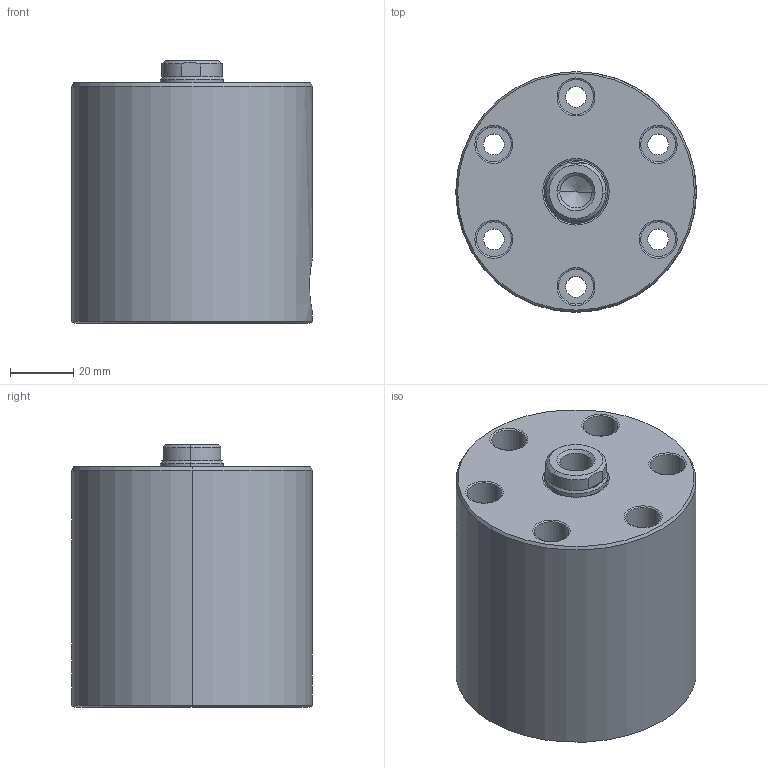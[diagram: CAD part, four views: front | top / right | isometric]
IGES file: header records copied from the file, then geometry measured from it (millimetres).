
Start section: SolidWorks IGES file using analytic representation for surfaces
Global section: file name: F:\COMPECT CYLINDER-STD\CO2C-7625.IGS; native system: SolidWorks 2019; preprocessor: SolidWorks 2019; author: ADMIN; date: 200708.130922; units: millimetre
Bounding box: 76 x 76 x 83 mm (x, y, z)
Volume: 317237.5 mm3; surface area: 46086.7 mm2
Topology: 2 solids, 2 shells, 125 faces, 269 edges, 159 vertices
Faces by surface type: revolution 102, plane 23
